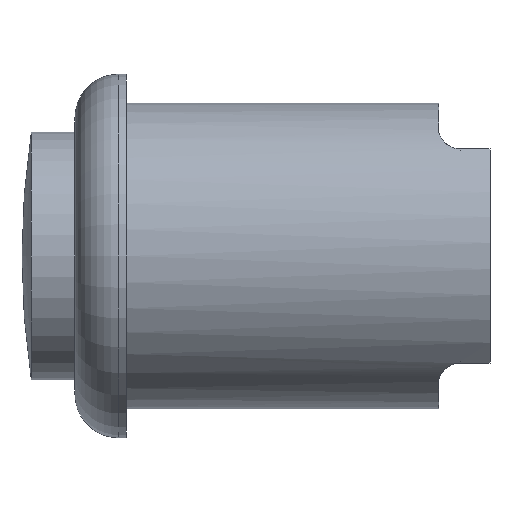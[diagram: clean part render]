
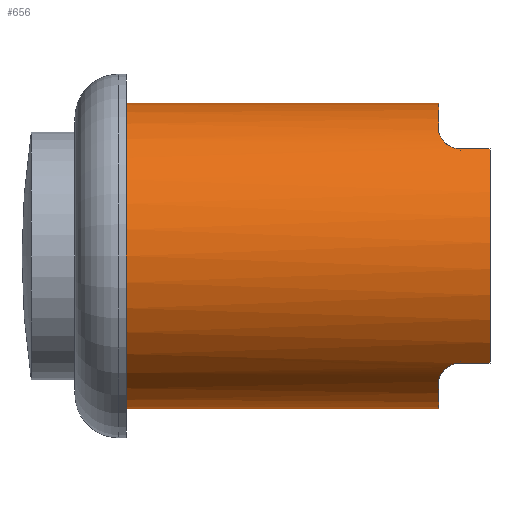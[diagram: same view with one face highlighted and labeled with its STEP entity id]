
A CAD part, left-side view. The second image highlights one B-rep face of the part: STEP entity #656.
In plain terms, the highlighted cylindrical face has radius 14 mm (diameter 28 mm), a partial arc.
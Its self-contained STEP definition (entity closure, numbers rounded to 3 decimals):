
#1 = CIRCLE ( 'NONE', #417, 14. ) ;
#8 = CARTESIAN_POINT ( 'NONE',  ( -10., -30.6, 9.798 ) ) ;
#16 = VERTEX_POINT ( 'NONE', #881 ) ;
#28 = ORIENTED_EDGE ( 'NONE', *, *, #343, .T. ) ;
#31 = CARTESIAN_POINT ( 'NONE',  ( -9.868, -29.871, -9.931 ) ) ;
#61 = DIRECTION ( 'NONE',  ( 0., 1., 0. ) ) ;
#70 = AXIS2_PLACEMENT_3D ( 'NONE', #674, #61, #132 ) ;
#85 = EDGE_CURVE ( 'NONE', #340, #498, #518, .T. ) ;
#88 = ORIENTED_EDGE ( 'NONE', *, *, #470, .T. ) ;
#95 = FACE_OUTER_BOUND ( 'NONE', #875, .T. ) ;
#96 = CARTESIAN_POINT ( 'NONE',  ( -10., -30.6, -9.798 ) ) ;
#102 = EDGE_CURVE ( 'NONE', #569, #285, #394, .T. ) ;
#117 = EDGE_CURVE ( 'NONE', #16, #340, #450, .T. ) ;
#118 = ORIENTED_EDGE ( 'NONE', *, *, #102, .T. ) ;
#119 = ORIENTED_EDGE ( 'NONE', *, *, #426, .T. ) ;
#123 = CARTESIAN_POINT ( 'NONE',  ( -9.152, -28.946, 10.597 ) ) ;
#127 = DIRECTION ( 'NONE',  ( 0., 0., 1. ) ) ;
#132 = DIRECTION ( 'NONE',  ( 0., 0., 1. ) ) ;
#141 = ORIENTED_EDGE ( 'NONE', *, *, #85, .F. ) ;
#152 = VERTEX_POINT ( 'NONE', #8 ) ;
#159 = VERTEX_POINT ( 'NONE', #690 ) ;
#183 = CARTESIAN_POINT ( 'NONE',  ( -10., -30.447, 9.798 ) ) ;
#185 = AXIS2_PLACEMENT_3D ( 'NONE', #682, #330, #127 ) ;
#187 = LINE ( 'NONE', #721, #567 ) ;
#188 = CARTESIAN_POINT ( 'NONE',  ( -9.678, -29.504, 10.117 ) ) ;
#211 = DIRECTION ( 'NONE',  ( 0., 1., 0. ) ) ;
#212 = LINE ( 'NONE', #376, #517 ) ;
#217 = DIRECTION ( 'NONE',  ( 0., 0., 1. ) ) ;
#222 = DIRECTION ( 'NONE',  ( 0., 0., -1. ) ) ;
#232 = CARTESIAN_POINT ( 'NONE',  ( -9.146, -28.956, -10.601 ) ) ;
#245 = CARTESIAN_POINT ( 'NONE',  ( -8., -28.6, -11.489 ) ) ;
#262 = CARTESIAN_POINT ( 'NONE',  ( -9.52, -29.294, 10.265 ) ) ;
#278 = CARTESIAN_POINT ( 'NONE',  ( 0., 9.532, -14. ) ) ;
#279 = DIRECTION ( 'NONE',  ( 0., 1., 0. ) ) ;
#285 = VERTEX_POINT ( 'NONE', #353 ) ;
#294 = CARTESIAN_POINT ( 'NONE',  ( -9.244, -29.029, -10.515 ) ) ;
#302 = CARTESIAN_POINT ( 'NONE',  ( -8.25, -28.6, -11.315 ) ) ;
#304 = DIRECTION ( 'NONE',  ( 0., 1., 0. ) ) ;
#330 = DIRECTION ( 'NONE',  ( 0., 1., 0. ) ) ;
#332 = CARTESIAN_POINT ( 'NONE',  ( -9.749, -29.621, 10.048 ) ) ;
#340 = VERTEX_POINT ( 'NONE', #639 ) ;
#343 = EDGE_CURVE ( 'NONE', #550, #159, #534, .T. ) ;
#353 = CARTESIAN_POINT ( 'NONE',  ( -10., -33.3, -9.798 ) ) ;
#362 = CIRCLE ( 'NONE', #675, 14. ) ;
#369 = CARTESIAN_POINT ( 'NONE',  ( -9.677, -29.502, -10.118 ) ) ;
#376 = CARTESIAN_POINT ( 'NONE',  ( 0., 9.532, 14. ) ) ;
#385 = CARTESIAN_POINT ( 'NONE',  ( -10., -30.6, -9.798 ) ) ;
#394 = LINE ( 'NONE', #402, #636 ) ;
#398 = CARTESIAN_POINT ( 'NONE',  ( -8.604, -28.69, 11.045 ) ) ;
#401 = CARTESIAN_POINT ( 'NONE',  ( -8.486, -28.656, 11.136 ) ) ;
#402 = CARTESIAN_POINT ( 'NONE',  ( -10., 9.532, -9.798 ) ) ;
#417 = AXIS2_PLACEMENT_3D ( 'NONE', #558, #211, #217 ) ;
#426 = EDGE_CURVE ( 'NONE', #159, #498, #212, .T. ) ;
#432 = VERTEX_POINT ( 'NONE', #245 ) ;
#434 = ORIENTED_EDGE ( 'NONE', *, *, #869, .T. ) ;
#439 = CARTESIAN_POINT ( 'NONE',  ( -9.747, -29.617, -10.05 ) ) ;
#450 = LINE ( 'NONE', #278, #810 ) ;
#469 = CARTESIAN_POINT ( 'NONE',  ( -8.247, -28.612, 11.314 ) ) ;
#470 = EDGE_CURVE ( 'NONE', #475, #152, #187, .T. ) ;
#474 = DIRECTION ( 'NONE',  ( 0., -1., 0. ) ) ;
#475 = VERTEX_POINT ( 'NONE', #660 ) ;
#498 = VERTEX_POINT ( 'NONE', #521 ) ;
#506 = CARTESIAN_POINT ( 'NONE',  ( 0., -28.6, 0. ) ) ;
#517 = VECTOR ( 'NONE', #522, 1000. ) ;
#518 = CIRCLE ( 'NONE', #70, 14. ) ;
#521 = CARTESIAN_POINT ( 'NONE',  ( 0., 0., 14. ) ) ;
#522 = DIRECTION ( 'NONE',  ( 0., 1., 0. ) ) ;
#534 = CIRCLE ( 'NONE', #634, 14. ) ;
#538 = CARTESIAN_POINT ( 'NONE',  ( -9.983, -30.299, 9.816 ) ) ;
#542 = CARTESIAN_POINT ( 'NONE',  ( -8.125, -28.6, 11.402 ) ) ;
#544 = CARTESIAN_POINT ( 'NONE',  ( -8.944, -28.82, 10.775 ) ) ;
#550 = VERTEX_POINT ( 'NONE', #887 ) ;
#551 = ORIENTED_EDGE ( 'NONE', *, *, #739, .T. ) ;
#558 = CARTESIAN_POINT ( 'NONE',  ( 0., -33.3, 0. ) ) ;
#563 = CARTESIAN_POINT ( 'NONE',  ( -9.916, -30.007, -9.883 ) ) ;
#564 = CARTESIAN_POINT ( 'NONE',  ( 0., -28.6, 0. ) ) ;
#567 = VECTOR ( 'NONE', #304, 1000. ) ;
#569 = VERTEX_POINT ( 'NONE', #385 ) ;
#571 = ORIENTED_EDGE ( 'NONE', *, *, #899, .T. ) ;
#575 = DIRECTION ( 'NONE',  ( 0., 0., -1. ) ) ;
#607 = CARTESIAN_POINT ( 'NONE',  ( -9.868, -29.873, 9.931 ) ) ;
#617 = CARTESIAN_POINT ( 'NONE',  ( -8., -28.6, 11.489 ) ) ;
#620 = EDGE_CURVE ( 'NONE', #152, #550, #779, .T. ) ;
#634 = AXIS2_PLACEMENT_3D ( 'NONE', #506, #857, #222 ) ;
#636 = VECTOR ( 'NONE', #474, 1000. ) ;
#639 = CARTESIAN_POINT ( 'NONE',  ( 0., 0., -14. ) ) ;
#647 = DIRECTION ( 'NONE',  ( 0., 1., 0. ) ) ;
#653 = CARTESIAN_POINT ( 'NONE',  ( -9.982, -30.295, -9.816 ) ) ;
#656 = ADVANCED_FACE ( 'NONE', ( #95 ), #710, .T. ) ;
#660 = CARTESIAN_POINT ( 'NONE',  ( -10., -33.3, 9.798 ) ) ;
#674 = CARTESIAN_POINT ( 'NONE',  ( 0., 0., 0. ) ) ;
#675 = AXIS2_PLACEMENT_3D ( 'NONE', #564, #647, #575 ) ;
#682 = CARTESIAN_POINT ( 'NONE',  ( 0., 9.532, 0. ) ) ;
#690 = CARTESIAN_POINT ( 'NONE',  ( 0., -28.6, 14. ) ) ;
#701 = ORIENTED_EDGE ( 'NONE', *, *, #620, .T. ) ;
#707 = CARTESIAN_POINT ( 'NONE',  ( -8.828, -28.775, -10.867 ) ) ;
#710 = CYLINDRICAL_SURFACE ( 'NONE', #185, 14. ) ;
#711 = CARTESIAN_POINT ( 'NONE',  ( -9.43, -29.197, -10.348 ) ) ;
#716 = CARTESIAN_POINT ( 'NONE',  ( -8.487, -28.645, -11.138 ) ) ;
#719 = CARTESIAN_POINT ( 'NONE',  ( -8., -28.6, -11.489 ) ) ;
#721 = CARTESIAN_POINT ( 'NONE',  ( -10., 9.532, 9.798 ) ) ;
#739 = EDGE_CURVE ( 'NONE', #285, #475, #1, .T. ) ;
#747 = CARTESIAN_POINT ( 'NONE',  ( -9.434, -29.2, 10.345 ) ) ;
#756 = CARTESIAN_POINT ( 'NONE',  ( -9.917, -30.01, 9.882 ) ) ;
#772 = ORIENTED_EDGE ( 'NONE', *, *, #117, .F. ) ;
#779 = B_SPLINE_CURVE_WITH_KNOTS ( 'NONE', 3,
 ( #878, #183, #538, #756, #607, #332, #188, #262, #747, #123, #544, #398, #401, #469, #542, #617 ),
 .UNSPECIFIED., .F., .F.,
 ( 4, 2, 2, 2, 2, 2, 2, 4 ),
 ( 0., 0., 0.001, 0.001, 0.002, 0.003, 0.003, 0.004 ),
 .UNSPECIFIED. ) ;
#791 = CARTESIAN_POINT ( 'NONE',  ( -9.519, -29.292, -10.267 ) ) ;
#793 = CARTESIAN_POINT ( 'NONE',  ( -8.938, -28.829, -10.777 ) ) ;
#810 = VECTOR ( 'NONE', #279, 1000. ) ;
#832 = B_SPLINE_CURVE_WITH_KNOTS ( 'NONE', 3,
 ( #719, #302, #716, #707, #793, #232, #294, #711, #791, #369, #439, #31, #563, #653, #867, #96 ),
 .UNSPECIFIED., .F., .F.,
 ( 4, 2, 2, 2, 2, 2, 2, 4 ),
 ( 0., 0.001, 0.001, 0.002, 0.002, 0.003, 0.003, 0.004 ),
 .UNSPECIFIED. ) ;
#857 = DIRECTION ( 'NONE',  ( 0., 1., 0. ) ) ;
#867 = CARTESIAN_POINT ( 'NONE',  ( -10., -30.447, -9.798 ) ) ;
#869 = EDGE_CURVE ( 'NONE', #16, #432, #362, .T. ) ;
#875 = EDGE_LOOP ( 'NONE', ( #772, #434, #571, #118, #551, #88, #701, #28, #119, #141 ) ) ;
#878 = CARTESIAN_POINT ( 'NONE',  ( -10., -30.6, 9.798 ) ) ;
#881 = CARTESIAN_POINT ( 'NONE',  ( 0., -28.6, -14. ) ) ;
#887 = CARTESIAN_POINT ( 'NONE',  ( -8., -28.6, 11.489 ) ) ;
#899 = EDGE_CURVE ( 'NONE', #432, #569, #832, .T. ) ;
